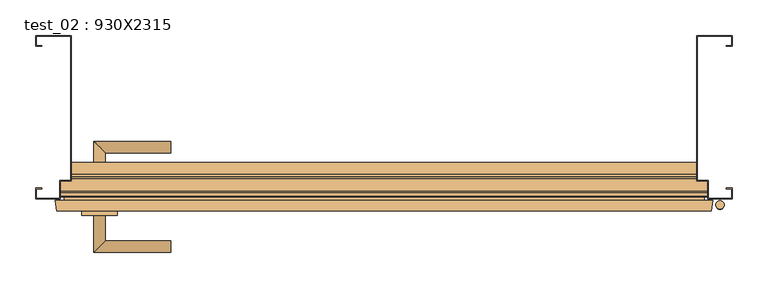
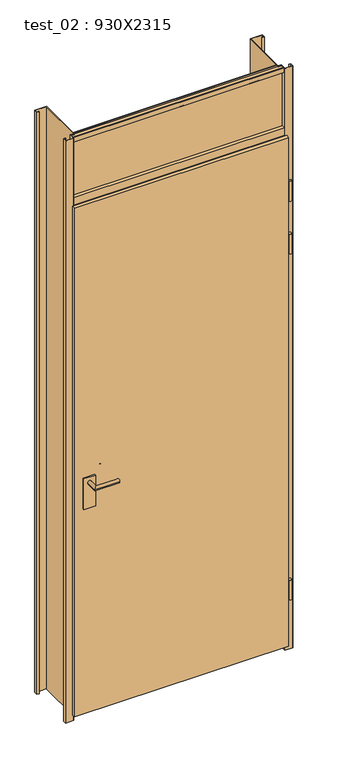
"""IFC4 building model written with IfcOpenShell, lengths in millimetres: door geometry, test_02 : 930X2315."""

import ifcopenshell
import ifcopenshell.guid

model = None  # the IFC model being written
_history = None  # IfcOwnerHistory: only IFC2X3 demands one
_inside = {}  # id of a spatial element -> (the spatial element, [elements in it])
_under = {}  # id of a project, library or spatial element -> (it, [spatial elements below it])
_declared = {}  # id of a project -> (the project, [libraries it declares])
_typed = {}  # id of a type object -> (the type object, [elements of that type])
_made_of = {}  # id of a material, layer set ... -> (it, [elements and type objects made of it])


def new_model(schema):
    """Start an empty IFC model of exactly this schema.

    Asked for "IFC4X3", IfcOpenShell would pick the latest addendum, in which some entities
    have other attributes; the version numbers below select the first issue.
    IFC2X3 requires an IfcOwnerHistory on every rooted entity: one is made here for all.
    """
    global model, _history
    if schema == "IFC4X3":
        model = ifcopenshell.file(schema_version=(4, 3, 0, 0))
    else:
        model = ifcopenshell.file(schema=schema)
    _inside.clear()
    _under.clear()
    _declared.clear()
    _typed.clear()
    _made_of.clear()
    _history = None
    if model.schema == "IFC2X3":
        org = make("IfcOrganization", Name="unknown")
        user = make(
            "IfcPersonAndOrganization",
            ThePerson=make("IfcPerson", FamilyName="unknown"),
            TheOrganization=org,
        )
        app = make(
            "IfcApplication",
            ApplicationDeveloper=org,
            Version="unknown",
            ApplicationFullName="unknown",
            ApplicationIdentifier="unknown",
        )
        _history = make(
            "IfcOwnerHistory",
            OwningUser=user,
            OwningApplication=app,
            ChangeAction="ADDED",
            CreationDate=0,
        )
    return model


def make(cls, **values):
    """One entity of the class cls with the attributes given. An attribute that is None is left unset."""
    return model.create_entity(
        cls, **{name: value for name, value in values.items() if value is not None}
    )


def rooted(cls, **values):
    """An entity with a GlobalId (a new one), such as an element, a storey or a relation."""
    return make(cls, GlobalId=ifcopenshell.guid.new(), OwnerHistory=_history, **values)


def si_unit(unit_type, name, prefix=None):
    """IfcSIUnit, for example si_unit("LENGTHUNIT", "METRE", prefix="MILLI")."""
    return make("IfcSIUnit", UnitType=unit_type, Prefix=prefix, Name=name)


def assignment(units):
    """IfcUnitAssignment: the units of a project."""
    return None if units is None else make("IfcUnitAssignment", Units=units)


def point(xyz):
    """IfcCartesianPoint."""
    return None if xyz is None else make("IfcCartesianPoint", Coordinates=xyz)


def direction(xyz):
    """IfcDirection."""
    return None if xyz is None else make("IfcDirection", DirectionRatios=xyz)


def frame(location, z_axis=None, x_axis=None):
    """IfcAxis2Placement3D, a coordinate frame: its origin and axes. An axis left out is left unset."""
    return make(
        "IfcAxis2Placement3D",
        Location=point(location),
        Axis=direction(z_axis),
        RefDirection=direction(x_axis),
    )


def frame_2d(location, x_axis=None):
    """IfcAxis2Placement2D, a coordinate frame in the plane: its origin and x axis."""
    return make(
        "IfcAxis2Placement2D", Location=point(location), RefDirection=direction(x_axis)
    )


def origin():
    """The frame at (0, 0, 0) with its axes left unset."""
    return frame((0.0, 0.0, 0.0))


def origin_with_axes():
    """The frame at (0, 0, 0) with the z axis (0, 0, 1) and the x axis (1, 0, 0) written out."""
    return frame((0.0, 0.0, 0.0), z_axis=(0.0, 0.0, 1.0), x_axis=(1.0, 0.0, 0.0))


def place(relative_to, where):
    """IfcLocalPlacement: puts the frame where relative to a parent placement (None: the world)."""
    return make(
        "IfcLocalPlacement", PlacementRelTo=relative_to, RelativePlacement=where
    )


def context(
    kind, dimensions, precision=None, world=None, true_north=None, identifier=None
):
    """IfcGeometricRepresentationContext, for example the 3D "Model" context."""
    return make(
        "IfcGeometricRepresentationContext",
        ContextIdentifier=identifier,
        ContextType=kind,
        CoordinateSpaceDimension=dimensions,
        Precision=precision,
        WorldCoordinateSystem=world,
        TrueNorth=true_north,
    )


def project(units=None, contexts=None):
    """IfcProject with its units and contexts."""
    return rooted(
        "IfcProject",
        Name="project",
        RepresentationContexts=contexts,
        UnitsInContext=assignment(units),
    )


def spatial(cls, under=None, at=None, **own):
    """A site, building, storey or space (cls), placed at a placement, below another one or the project."""
    s = rooted(cls, ObjectPlacement=at, **own)
    if under is not None:
        _under.setdefault(under.id(), (under, []))[1].append(s)
    return s


def polyline(points):
    """IfcPolyline through the points."""
    return make("IfcPolyline", Points=[point(p) for p in points])


def circle_curve(where, radius):
    """IfcCircle in the frame where."""
    return make("IfcCircle", Position=where, Radius=radius)


def ellipse_curve(where, semi_axis1, semi_axis2):
    """IfcEllipse in the frame where."""
    return make(
        "IfcEllipse", Position=where, SemiAxis1=semi_axis1, SemiAxis2=semi_axis2
    )


def trimmed(basis, trim1, trim2, sense, master):
    """IfcTrimmedCurve: the piece of a basis curve between two trims."""
    return make(
        "IfcTrimmedCurve",
        BasisCurve=basis,
        Trim1=trim1,
        Trim2=trim2,
        SenseAgreement=sense,
        MasterRepresentation=master,
    )


def segment(curve, same_sense, transition):
    """IfcCompositeCurveSegment."""
    return make(
        "IfcCompositeCurveSegment",
        Transition=transition,
        SameSense=same_sense,
        ParentCurve=curve,
    )


def composite_curve(segments, self_intersect=None):
    """IfcCompositeCurve: segments joined end to end."""
    return make("IfcCompositeCurve", Segments=segments, SelfIntersect=self_intersect)


def outline(outer, holes=None, kind="AREA"):
    """IfcArbitraryClosedProfileDef: a profile drawn as a closed curve; with holes, ...WithVoids."""
    if holes is None:
        return make("IfcArbitraryClosedProfileDef", ProfileType=kind, OuterCurve=outer)
    return make(
        "IfcArbitraryProfileDefWithVoids",
        ProfileType=kind,
        OuterCurve=outer,
        InnerCurves=holes,
    )


def extrude(swept, where, along, depth):
    """IfcExtrudedAreaSolid: the profile swept, set in the frame where, extruded along a direction by depth."""
    return make(
        "IfcExtrudedAreaSolid",
        SweptArea=swept,
        Position=where,
        ExtrudedDirection=direction(along),
        Depth=depth,
    )


def faces_of(points, faces, orient=None, outer=None):
    """IfcFace entities. A face is a list of loops; a loop is a list of indices into points, from 0.

    orient and outer hold one flag for each loop. By default every Orientation is true, the
    first loop of a face is its IfcFaceOuterBound and the others are IfcFaceBound.
    """
    made = []
    for i, loops in enumerate(faces):
        bounds = []
        for j, loop in enumerate(loops):
            is_outer = j == 0 if outer is None else outer[i][j]
            bounds.append(
                make(
                    "IfcFaceOuterBound" if is_outer else "IfcFaceBound",
                    Bound=make("IfcPolyLoop", Polygon=[points[k] for k in loop]),
                    Orientation=True if orient is None else orient[i][j],
                )
            )
        made.append(make("IfcFace", Bounds=bounds))
    return made


def faceted_brep(points, faces, orient=None, outer=None, voids=None):
    """IfcFacetedBrep: a solid bounded by flat faces; with voids (closed shells), ...WithVoids."""
    shared = [point(p) for p in points]
    hull = make("IfcClosedShell", CfsFaces=faces_of(shared, faces, orient, outer))
    if voids is None:
        return make("IfcFacetedBrep", Outer=hull)
    return make(
        "IfcFacetedBrepWithVoids",
        Outer=hull,
        Voids=[
            make(cls, CfsFaces=faces_of(shared, fs, o, b)) for cls, fs, o, b in voids
        ],
    )


def shape(context_of_items, identifier, shape_type, items):
    """IfcShapeRepresentation: the items that make up one representation, for example the "Body"."""
    return make(
        "IfcShapeRepresentation",
        ContextOfItems=context_of_items,
        RepresentationIdentifier=identifier,
        RepresentationType=shape_type,
        Items=items,
    )


def source(mapping_origin, context_of_items, identifier, shape_type, items):
    """IfcRepresentationMap: a shape defined once, which mapped items show again and again."""
    return make(
        "IfcRepresentationMap",
        MappingOrigin=mapping_origin,
        MappedRepresentation=shape(context_of_items, identifier, shape_type, items),
    )


def transform(
    local_origin,
    x_axis=None,
    y_axis=None,
    z_axis=None,
    scale=None,
    scale2=None,
    scale3=None,
    uniform=True,
):
    """IfcCartesianTransformationOperator3D, or its non-uniform kind. x_axis, y_axis, z_axis: its Axis1, 2, 3."""
    if uniform:
        return make(
            "IfcCartesianTransformationOperator3D",
            Axis1=direction(x_axis),
            Axis2=direction(y_axis),
            LocalOrigin=point(local_origin),
            Scale=scale,
            Axis3=direction(z_axis),
        )
    return make(
        "IfcCartesianTransformationOperator3DnonUniform",
        Axis1=direction(x_axis),
        Axis2=direction(y_axis),
        LocalOrigin=point(local_origin),
        Scale=scale,
        Axis3=direction(z_axis),
        Scale2=scale2,
        Scale3=scale3,
    )


def mapped(mapping_source, mapping_target):
    """IfcMappedItem: shows the shape of a source again, moved by a transform."""
    return make(
        "IfcMappedItem", MappingSource=mapping_source, MappingTarget=mapping_target
    )


def made_of(thing, what):
    """Note that an element or type object is made of a material, layer set ...; save() writes the relation."""
    if what is not None:
        _made_of.setdefault(what.id(), (what, []))[1].append(thing)
    return thing


def element(
    cls,
    number,
    at=None,
    inside=None,
    cuts=None,
    type_object=None,
    material=None,
    context=None,
    identifier="Body",
    shape_type=None,
    held_by="IfcProductDefinitionShape",
    body=None,
    shapes=None,
    **own,
):
    """One element of the class cls, such as IfcWall. Its Tag is "e" and its number.

    at: its placement. inside: the storey or other place that contains it. cuts: it is an
    opening in that element (IfcRelVoidsElement). A single representation is given by context,
    identifier, shape_type and body (its items); several are given by shapes. held_by: the class
    of the entity that holds the representations. save() writes the other relations.
    """
    e = rooted(cls, Tag="e%d" % number, ObjectPlacement=at, **own)
    if body is not None:
        shapes = [shape(context, identifier, shape_type, body)]
    if shapes is not None:
        e.Representation = make(held_by, Representations=shapes)
    if inside is not None:
        _inside.setdefault(inside.id(), (inside, []))[1].append(e)
    if cuts is not None:
        rooted(
            "IfcRelVoidsElement", RelatingBuildingElement=cuts, RelatedOpeningElement=e
        )
    if type_object is not None:
        _typed.setdefault(type_object.id(), (type_object, []))[1].append(e)
    return made_of(e, material)


def aggregate(whole, parts):
    """IfcRelAggregates: a whole, such as a stair, and the parts it consists of."""
    return rooted("IfcRelAggregates", RelatingObject=whole, RelatedObjects=parts)


def save(model, path):
    """Write the relations noted so far, then the file.

    IfcRelAggregates (storeys below a building ...), IfcRelContainedInSpatialStructure (elements
    in a storey), IfcRelDefinesByType, IfcRelAssociatesMaterial and IfcRelDeclares: one each for
    every whole, place, type object, material and project.
    """
    for whole, parts in _under.values():
        aggregate(whole, parts)
    for where, things in _inside.values():
        rooted(
            "IfcRelContainedInSpatialStructure",
            RelatedElements=things,
            RelatingStructure=where,
        )
    for kind, things in _typed.values():
        rooted("IfcRelDefinesByType", RelatedObjects=things, RelatingType=kind)
    for what, things in _made_of.values():
        rooted("IfcRelAssociatesMaterial", RelatedObjects=things, RelatingMaterial=what)
    for by, libraries in _declared.values():
        rooted("IfcRelDeclares", RelatingContext=by, RelatedDefinitions=libraries)
    model.write(path)


def plane_surface(at):
    """IfcPlane: the flat surface through the origin of the frame at, square to its z axis."""
    return make("IfcPlane", Position=at)


def cylinder_surface(at, radius):
    """IfcCylindricalSurface: all points at the distance radius from the z axis of the frame at."""
    return make("IfcCylindricalSurface", Position=at, Radius=radius)


def advanced_brep(points, edges, surfaces, faces):
    """IfcAdvancedBrep: a solid bounded by faces that lie on surfaces and meet in shared edges.

    An edge is (start, end): straight between two places in points (the first is 0);
    or (start, end, curve); or (start, end, curve, False) where it runs against its curve.
    A face is (place in surfaces, loops), or (place, loops, False) where it looks against
    its surface's normal. A loop lists edges by number (the first is 1), with a minus sign
    where the edge is run from its end to its start. The first loop is the outer one.
    """
    corners = [point(p) for p in points]
    vertices = [make("IfcVertexPoint", VertexGeometry=c) for c in corners]
    made = []
    for start, end, *more in edges:
        made.append(
            make(
                "IfcEdgeCurve",
                EdgeStart=vertices[start],
                EdgeEnd=vertices[end],
                EdgeGeometry=more[0] if more else make("IfcPolyline", Points=[corners[start], corners[end]]),
                SameSense=more[1] if len(more) > 1 else True,
            )
        )
    hull = []
    for where, loops, *sense in faces:
        bounds = []
        for j, loop in enumerate(loops):
            ring = [make("IfcOrientedEdge", EdgeElement=made[abs(k) - 1], Orientation=k > 0) for k in loop]
            bounds.append(
                make(
                    "IfcFaceOuterBound" if j == 0 else "IfcFaceBound",
                    Bound=make("IfcEdgeLoop", EdgeList=ring),
                    Orientation=True,
                )
            )
        hull.append(make("IfcAdvancedFace", Bounds=bounds, FaceSurface=surfaces[where], SameSense=sense[0] if sense else True))
    return make("IfcAdvancedBrep", Outer=make("IfcClosedShell", CfsFaces=hull))


def test_02_930x2315_95cc4177(model_context):
    return source(origin(), model_context, "Body", "SolidModel", [
        extrude(outline(polyline([(-455.0, -91.875), (455.0, -91.875), (455.0, -95.875), (-455.0, -95.875), (-455.0, -91.875)])), frame((0.0, 0.0, 2374.0), z_axis=(0.0, 0.0, 1.0), x_axis=(1.0, 0.0, 0.0)), (0.0, 0.0, 1.0), 271.0),
        extrude(outline(polyline([(963.0, -425.0), (963.0, -375.0), (1103.0, -375.0), (1103.0, -425.0), (963.0, -425.0)]), holes=[composite_curve([segment(trimmed(circle_curve(frame_2d((1078.0, -400.0)), 8.0), [point((1078.0, -408.0))], [point((1078.0, -392.0))], True, "CARTESIAN"), True, "CONTINUOUS"), segment(trimmed(circle_curve(frame_2d((1078.0, -400.0)), 8.0), [point((1078.0, -392.0))], [point((1078.0, -408.0))], True, "CARTESIAN"), True, "CONTINUOUS")], self_intersect=False)]), frame((0.0, -138.0, 0.0), z_axis=(0.0, 1.0, 0.0), x_axis=(0.0, 0.0, 1.0)), (0.0, 0.0, 1.0), 6.0),
        advanced_brep(
        [(-392.0, -132.0, 1078.0), (-408.0, -132.0, 1078.0), (-408.0, -190.0, 1078.0), (-392.0, -174.0, 1078.0), (-300.0, -174.0, 1078.0), (-300.0, -190.0, 1078.0)],
        [
            (0, 1, circle_curve(frame((-400.0, -132.0, 1078.0), z_axis=(0.0, 1.0, 0.0), x_axis=(-1.0, 0.0, 0.0)), 8.0)),
            (1, 0, circle_curve(frame((-400.0, -132.0, 1078.0), z_axis=(0.0, 1.0, 0.0), x_axis=(-1.0, 0.0, 0.0)), 8.0)),
            (1, 2),
            (2, 3, ellipse_curve(frame((-400.0, -182.0, 1078.0), z_axis=(-0.7071067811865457, 0.7071067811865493, 0.0), x_axis=(0.7071067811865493, 0.7071067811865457, 0.0)), 11.3137085, 8.0)),
            (3, 0),
            (3, 2, ellipse_curve(frame((-400.0, -182.0, 1078.0), z_axis=(-0.7071067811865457, 0.7071067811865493, 0.0), x_axis=(0.7071067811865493, 0.7071067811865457, 0.0)), 11.3137085, 8.0)),
            (4, 5, circle_curve(frame((-300.0, -182.0, 1078.0), z_axis=(1.0, 0.0, 0.0), x_axis=(0.0, -1.0, 0.0)), 8.0)),
            (5, 4, circle_curve(frame((-300.0, -182.0, 1078.0), z_axis=(1.0, 0.0, 0.0), x_axis=(0.0, -1.0, 0.0)), 8.0)),
            (2, 5),
            (4, 3),
        ],
        [
            plane_surface(frame((-400.0, -132.0, 1078.0), z_axis=(0.0, 1.0, 0.0), x_axis=(0.0, 0.0, 1.0))),
            cylinder_surface(frame((-400.0, -132.0, 1078.0), z_axis=(0.0, 1.0, 0.0), x_axis=(-1.0, 0.0, 0.0)), 8.0),
            plane_surface(frame((-300.0, -182.0, 1078.0), z_axis=(1.0, 0.0, 0.0), x_axis=(0.0, 0.0, 1.0))),
            cylinder_surface(frame((-400.0, -182.0, 1078.0), z_axis=(-1.0, 0.0, 0.0), x_axis=(0.0, -1.0, 0.0)), 8.0),
        ],
        [
            (0, [[1, 2]]),
            (1, [[3, 4, 5, -2]]),
            (1, [[-5, 6, -3, -1]]),
            (2, [[7, 8]]),
            (3, [[9, -7, 10, -4]]),
            (3, [[-10, -8, -9, -6]]),
        ],
    ),
        extrude(outline(polyline([(963.0, -425.0), (963.0, -375.0), (1103.0, -375.0), (1103.0, -425.0), (963.0, -425.0)]), holes=[composite_curve([segment(trimmed(circle_curve(frame_2d((1078.0, -400.0)), 8.0), [point((1078.0, -408.0))], [point((1078.0, -392.0))], True, "CARTESIAN"), True, "CONTINUOUS"), segment(trimmed(circle_curve(frame_2d((1078.0, -400.0)), 8.0), [point((1078.0, -392.0))], [point((1078.0, -408.0))], True, "CARTESIAN"), True, "CONTINUOUS")], self_intersect=False)]), frame((0.0, -92.0, 0.0), z_axis=(0.0, 1.0, 0.0), x_axis=(0.0, 0.0, 1.0)), (0.0, 0.0, 1.0), 6.0),
        advanced_brep(
        [(-392.0, -92.0, 1078.0), (-408.0, -92.0, 1078.0), (-392.0, -50.0, 1078.0), (-408.0, -34.0, 1078.0), (-300.0, -50.0, 1078.0), (-300.0, -34.0, 1078.0)],
        [
            (0, 1, circle_curve(frame((-400.0, -92.0, 1078.0), z_axis=(0.0, -1.0, 0.0), x_axis=(-1.0, 0.0, 0.0)), 8.0)),
            (1, 0, circle_curve(frame((-400.0, -92.0, 1078.0), z_axis=(0.0, -1.0, 0.0), x_axis=(-1.0, 0.0, 0.0)), 8.0)),
            (0, 2),
            (2, 3, ellipse_curve(frame((-400.0, -42.0, 1078.0), z_axis=(-0.7071067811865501, -0.7071067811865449, 0.0), x_axis=(0.7071067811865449, -0.7071067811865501, 0.0)), 11.3137085, 8.0)),
            (3, 1),
            (3, 2, ellipse_curve(frame((-400.0, -42.0, 1078.0), z_axis=(-0.7071067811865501, -0.7071067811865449, 0.0), x_axis=(0.7071067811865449, -0.7071067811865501, 0.0)), 11.3137085, 8.0)),
            (4, 5, circle_curve(frame((-300.0, -42.0, 1078.0), z_axis=(1.0, 0.0, 0.0), x_axis=(0.0, 1.0, 0.0)), 8.0)),
            (5, 4, circle_curve(frame((-300.0, -42.0, 1078.0), z_axis=(1.0, 0.0, 0.0), x_axis=(0.0, 1.0, 0.0)), 8.0)),
            (2, 4),
            (5, 3),
        ],
        [
            plane_surface(frame((-400.0, -92.0, 1078.0), z_axis=(0.0, -1.0, 0.0), x_axis=(0.0, 0.0, 1.0))),
            cylinder_surface(frame((-400.0, -92.0, 1078.0), z_axis=(0.0, -1.0, 0.0), x_axis=(-1.0, 0.0, 0.0)), 8.0),
            plane_surface(frame((-300.0, -42.0, 1078.0), z_axis=(1.0, 0.0, 0.0), x_axis=(0.0, 0.0, 1.0))),
            cylinder_surface(frame((-400.0, -42.0, 1078.0), z_axis=(-1.0, 0.0, 0.0), x_axis=(0.0, 1.0, 0.0)), 8.0),
        ],
        [
            (0, [[1, 2]]),
            (1, [[-1, 3, 4, 5]]),
            (1, [[-2, -5, 6, -3]]),
            (2, [[7, 8]]),
            (3, [[-4, 9, -8, 10]]),
            (3, [[-6, -10, -7, -9]]),
        ],
    ),
        faceted_brep([(-450.0, -117.0, 28.0), (-450.0, -92.0, 28.0), (450.0, -92.0, 28.0), (450.0, -117.0, 28.0), (462.0, -117.0, 28.0), (460.0, -132.0, 28.0), (-460.0, -132.0, 28.0), (-462.0, -117.0, 28.0), (-450.0, -117.0, 2335.0), (-450.0, -92.0, 2335.0), (450.0, -92.0, 2335.0), (450.0, -117.0, 2335.0), (-462.0, -117.0, 2343.0), (462.0, -117.0, 2343.0), (460.0, -132.0, 2343.0), (-460.0, -132.0, 2343.0)], [[[0, 1, 2, 3, 4, 5, 6, 7]], [[1, 0, 8, 9]], [[2, 1, 9, 10]], [[3, 2, 10, 11]], [[4, 3, 11, 8, 0, 7, 12, 13]], [[4, 13, 14, 5]], [[14, 15, 6, 5]], [[15, 12, 7, 6]], [[13, 12, 15, 14]], [[8, 11, 10, 9]]]),
        extrude(outline(polyline([(490.0, -115.0), (455.0, -115.0), (455.0, -90.0), (440.0, -90.0), (440.0, 115.0), (490.0, 115.0), (490.0, 100.0), (481.0, 100.0), (481.0, 100.8), (489.2, 100.8), (489.2, 114.2), (440.8, 114.2), (440.8, -89.2), (455.8, -89.2), (455.8, -114.2), (489.2, -114.2), (489.2, -100.8), (481.0, -100.8), (481.0, -100.0), (490.0, -100.0), (490.0, -115.0)])), origin_with_axes(), (0.0, 0.0, 1.0), 2650.0),
        extrude(outline(polyline([(-490.0, -115.0), (-490.0, -100.0), (-481.0, -100.0), (-481.0, -100.8), (-489.2, -100.8), (-489.2, -114.2), (-455.8, -114.2), (-455.8, -89.2), (-440.8, -89.2), (-440.8, 114.2), (-489.2, 114.2), (-489.2, 100.8), (-481.0, 100.8), (-481.0, 100.0), (-490.0, 100.0), (-490.0, 115.0), (-440.0, 115.0), (-440.0, -90.0), (-455.0, -90.0), (-455.0, -115.0), (-490.0, -115.0)])), origin_with_axes(), (0.0, 0.0, 1.0), 2650.0),
        faceted_brep([(440.0, -64.0, 2328.0), (440.0, -87.0, 2328.0), (-440.0, -87.0, 2328.0), (-440.0, -64.0, 2328.0), (440.0, -87.0, 2343.0), (-440.0, -87.0, 2343.0), (455.0, -90.0, 2343.0), (455.0, -112.0, 2343.0), (-455.0, -112.0, 2343.0), (-455.0, -90.0, 2343.0), (-440.0, -90.0, 2343.0), (440.0, -90.0, 2343.0), (455.0, -112.0, 2378.0), (-455.0, -112.0, 2378.0), (455.0, -97.0, 2378.0), (-455.0, -97.0, 2378.0), (455.0, -97.0, 2377.2), (-455.0, -97.0, 2377.2), (455.0, -111.2, 2377.2), (-455.0, -111.2, 2377.2), (455.0, -111.2, 2343.828082), (-455.0, -111.2, 2343.828082), (455.0, -90.0, 2343.828082), (440.0, -90.0, 2343.828082), (440.0, -86.2, 2343.828082), (-440.0, -86.2, 2343.828082), (-440.0, -90.0, 2343.828082), (-455.0, -90.0, 2343.828082), (440.0, -86.2, 2328.8), (-440.0, -86.2, 2328.8), (440.0, -64.8, 2328.8), (-440.0, -64.8, 2328.8), (440.0, -64.8, 2377.2), (-440.0, -64.8, 2377.2), (440.0, -84.0, 2377.2), (-440.0, -84.0, 2377.2), (440.0, -84.0, 2378.0), (-440.0, -84.0, 2378.0), (440.0, -64.0, 2378.0), (-440.0, -64.0, 2378.0)], [[[0, 1, 2, 3]], [[1, 4, 5, 2]], [[6, 7, 8, 9, 10, 5, 4, 11]], [[7, 12, 13, 8]], [[12, 14, 15, 13]], [[14, 16, 17, 15]], [[16, 18, 19, 17]], [[18, 20, 21, 19]], [[20, 22, 23, 24, 25, 26, 27, 21]], [[24, 28, 29, 25]], [[28, 30, 31, 29]], [[30, 32, 33, 31]], [[32, 34, 35, 33]], [[34, 36, 37, 35]], [[36, 38, 39, 37]], [[38, 0, 3, 39]], [[6, 22, 20, 18, 16, 14, 12, 7]], [[22, 6, 11, 23]], [[23, 11, 4, 1, 0, 38, 36, 34, 32, 30, 28, 24]], [[27, 9, 8, 13, 15, 17, 19, 21]], [[9, 27, 26, 10]], [[10, 26, 25, 29, 31, 33, 35, 37, 39, 3, 2, 5]]]),
        faceted_brep([(455.0, -90.0, 2630.0), (455.0, -90.75, 2630.0), (-455.0, -90.75, 2630.0), (-455.0, -90.0, 2630.0), (-440.0, -90.0, 2630.0), (-440.0, -80.75, 2630.0), (440.0, -80.75, 2630.0), (440.0, -90.0, 2630.0), (455.0, -90.75, 2635.0), (-455.0, -90.75, 2635.0), (455.0, -89.95, 2635.0), (-455.0, -89.95, 2635.0), (455.0, -89.95, 2646.0), (455.0, -89.95, 2645.2), (440.0, -89.95, 2645.2), (440.0, -89.95, 2646.0), (440.0, -89.95, 2630.8), (-440.0, -89.95, 2630.8), (-440.0, -89.95, 2646.0), (-440.0, -89.95, 2645.2), (-455.0, -89.95, 2645.2), (-455.0, -89.95, 2646.0), (440.0, -81.55, 2630.8), (-440.0, -81.55, 2630.8), (440.0, -81.55, 2649.2), (-440.0, -81.55, 2649.2), (440.0, -83.9787187, 2649.2), (-440.0, -83.9787187, 2649.2), (440.0, -86.2881198, 2645.2), (-440.0, -86.2881198, 2645.2), (455.0, -105.2118802, 2645.2), (-455.0, -105.2118802, 2645.2), (455.0, -107.5212813, 2649.2), (-455.0, -107.5212813, 2649.2), (455.0, -109.95, 2649.2), (-455.0, -109.95, 2649.2), (455.0, -109.95, 2630.8), (-455.0, -109.95, 2630.8), (455.0, -99.55, 2630.8), (-455.0, -99.55, 2630.8), (455.0, -99.55, 2635.0), (-455.0, -99.55, 2635.0), (455.0, -98.75, 2635.0), (-455.0, -98.75, 2635.0), (455.0, -98.75, 2630.0), (-455.0, -98.75, 2630.0), (455.0, -110.75, 2630.0), (-455.0, -110.75, 2630.0), (455.0, -110.75, 2650.0), (-455.0, -110.75, 2650.0), (455.0, -107.0594011, 2650.0), (-455.0, -107.0594011, 2650.0), (455.0, -104.75, 2646.0), (-455.0, -104.75, 2646.0), (440.0, -86.75, 2646.0), (-440.0, -86.75, 2646.0), (440.0, -84.4405989, 2650.0), (-440.0, -84.4405989, 2650.0), (440.0, -80.75, 2650.0), (-440.0, -80.75, 2650.0)], [[[0, 1, 2, 3, 4, 5, 6, 7]], [[1, 8, 9, 2]], [[8, 10, 11, 9]], [[12, 13, 14, 15]], [[7, 16, 17, 4, 3, 11, 10, 0]], [[18, 19, 20, 21]], [[16, 22, 23, 17]], [[22, 24, 25, 23]], [[24, 26, 27, 25]], [[26, 28, 29, 27]], [[13, 30, 31, 20, 19, 29, 28, 14]], [[30, 32, 33, 31]], [[32, 34, 35, 33]], [[34, 36, 37, 35]], [[36, 38, 39, 37]], [[38, 40, 41, 39]], [[40, 42, 43, 41]], [[42, 44, 45, 43]], [[44, 46, 47, 45]], [[46, 48, 49, 47]], [[48, 50, 51, 49]], [[50, 52, 53, 51]], [[52, 12, 15, 54, 55, 18, 21, 53]], [[54, 56, 57, 55]], [[56, 58, 59, 57]], [[58, 6, 5, 59]], [[1, 0, 10, 8]], [[13, 12, 52, 50, 48, 46, 44, 42, 40, 38, 36, 34, 32, 30]], [[16, 7, 6, 58, 56, 54, 15, 14, 28, 26, 24, 22]], [[4, 17, 23, 25, 27, 29, 19, 18, 55, 57, 59, 5]], [[11, 3, 2, 9]], [[21, 20, 31, 33, 35, 37, 39, 41, 43, 45, 47, 49, 51, 53]]]),
        extrude(outline(composite_curve([segment(trimmed(circle_curve(frame_2d((472.5, -123.5)), 6.0), [point((466.5, -123.5))], [point((478.5, -123.5))], False, "CARTESIAN"), True, "CONTINUOUS"), segment(trimmed(circle_curve(frame_2d((472.5, -123.5)), 6.0), [point((478.5, -123.5))], [point((466.5, -123.5))], False, "CARTESIAN"), True, "CONTINUOUS")], self_intersect=False)), frame((0.0, 0.0, 233.0), z_axis=(0.0, 0.0, 1.0), x_axis=(1.0, 0.0, 0.0)), (0.0, 0.0, 1.0), 90.0),
        extrude(outline(composite_curve([segment(trimmed(circle_curve(frame_2d((472.5, -123.5)), 6.0), [point((466.5, -123.5))], [point((478.5, -123.5))], False, "CARTESIAN"), True, "CONTINUOUS"), segment(trimmed(circle_curve(frame_2d((472.5, -123.5)), 6.0), [point((478.5, -123.5))], [point((466.5, -123.5))], False, "CARTESIAN"), True, "CONTINUOUS")], self_intersect=False)), frame((0.0, 0.0, 1808.0), z_axis=(0.0, 0.0, 1.0), x_axis=(1.0, 0.0, 0.0)), (0.0, 0.0, 1.0), 90.0),
        extrude(outline(composite_curve([segment(trimmed(circle_curve(frame_2d((472.5, -123.5)), 6.0), [point((466.5, -123.5))], [point((478.5, -123.5))], False, "CARTESIAN"), True, "CONTINUOUS"), segment(trimmed(circle_curve(frame_2d((472.5, -123.5)), 6.0), [point((478.5, -123.5))], [point((466.5, -123.5))], False, "CARTESIAN"), True, "CONTINUOUS")], self_intersect=False)), frame((0.0, 0.0, 2048.0), z_axis=(0.0, 0.0, 1.0), x_axis=(1.0, 0.0, 0.0)), (0.0, 0.0, 1.0), 90.0),
    ])


if __name__ == "__main__":
    model = new_model("IFC4")
    model_context = context("Model", 3, world=origin())
    ifc_project = project(units=[si_unit("LENGTHUNIT", "METRE", prefix="MILLI")], contexts=[model_context])
    site = spatial("IfcSite", under=ifc_project)
    building = spatial("IfcBuilding", under=site)
    placement = place(None, origin())
    test_02_930x2315_shape = test_02_930x2315_95cc4177(model_context)
    element("IfcDoor", 1, ObjectType="test_02 : 930X2315", at=placement, inside=building, context=model_context, shape_type="MappedRepresentation", body=[
        mapped(test_02_930x2315_shape, transform((0.0, 0.0, 0.0), x_axis=(1.0, 0.0, 0.0), y_axis=(0.0, 1.0, 0.0), z_axis=(0.0, 0.0, 1.0))),
    ])
    save(model, "model.ifc")
